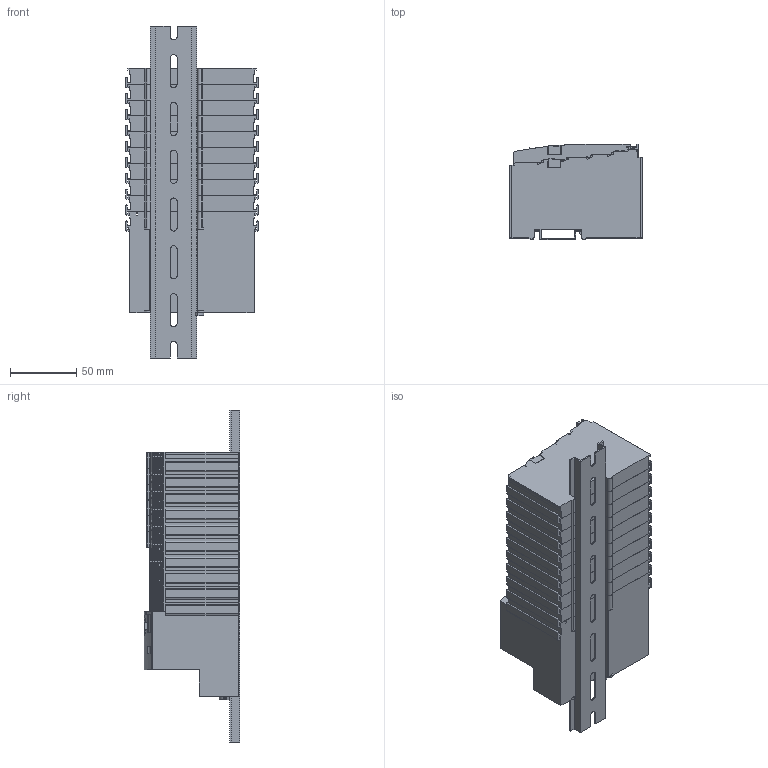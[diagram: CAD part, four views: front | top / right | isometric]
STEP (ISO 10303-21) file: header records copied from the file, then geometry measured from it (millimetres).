
FILE_DESCRIPTION(/* description */ ('STEP AP242','CAx-IF Rec.Pracs.---Representation and Presentation of Product Manufacturing Information (PMI)---4.0---2014-10-13','CAx-IF Rec.Pracs.---3D Tessellated Geometry---0.4---2014-09-14','2;1'),/* implementation_level */ '2;1');
FILE_NAME(/* name */ 'RTrident',/* time_stamp */ '2026-06-07T17:32:23+02:00',/* author */ ('License CC BY-ND 4.0'),/* organization */ ('CADENAS'),/* preprocessor_version */ 'ST-DEVELOPER v20',/* originating_system */ 'PARTsolutions',/* authorisation */ ' ');
FILE_SCHEMA (('AP242_MANAGED_MODEL_BASED_3D_ENGINEERING_MIM_LF { 1 0 10303 442 1 1 4 }'));
Products named in the file (8): RTrident; WAGO_210-112250; 750-8212; 750-530; 750-408; 750-600; 750-464; 750-531
Assembly tree (11 placements, depth 2):
  RTrident
    WAGO_210-112250
    750-8212
    750-530  x2
    750-408  x3
    750-600
    750-464
    750-531  x2
Bounding box: 100 x 72 x 250 mm (x, y, z)
Volume: 989442.1 mm3; surface area: 244228.8 mm2
Topology: 11 solids, 11 shells, 3307 faces, 9082 edges, 5976 vertices
Faces by surface type: plane 2100, cylinder 1001, cone 184, sphere 22
Full cylindrical faces by diameter (mm): 2.9 x20, 3.1 x20, 3.4 x24, 4.2 x24
Entity records: 79468 total; most frequent: CARTESIAN_POINT 11900, ORIENTED_EDGE 11198, DIRECTION 11016, EDGE_CURVE 5599, LINE 4032, VECTOR 4032, VERTEX_POINT 3720, AXIS2_PLACEMENT_3D 3492
